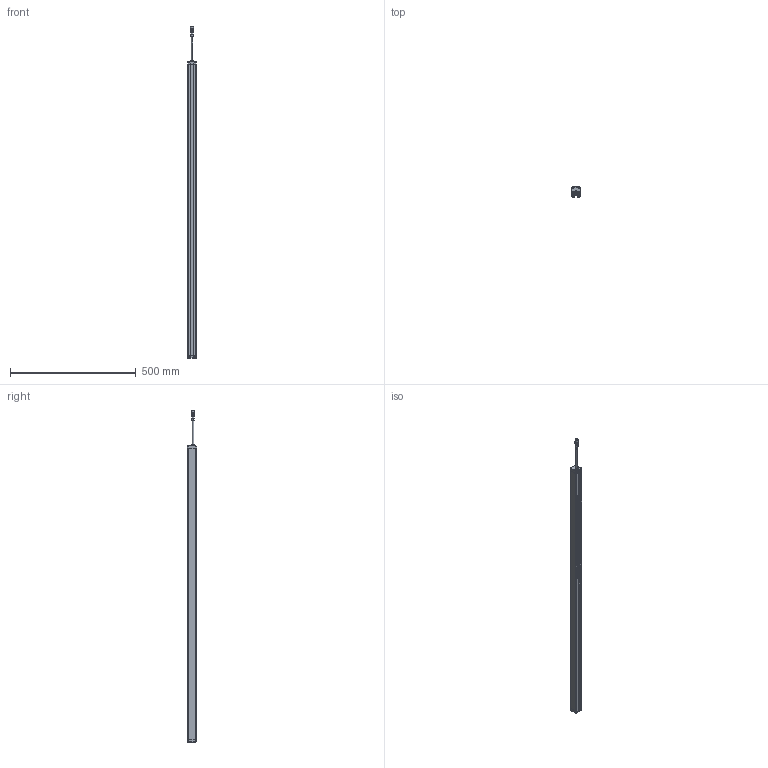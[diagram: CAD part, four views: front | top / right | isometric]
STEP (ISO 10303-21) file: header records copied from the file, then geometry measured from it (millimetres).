
FILE_DESCRIPTION((''),'2;1');
FILE_NAME('PRT0029','2026-03-31T13:16:54',('Administrator'),(''),'CREO PARAMETRIC BY PTC INC, 2016510','CREO PARAMETRIC BY PTC INC, 2016510','');
FILE_SCHEMA(('AUTOMOTIVE_DESIGN { 1 0 10303 214 1 1 1 1 }'));
Length unit declared in the file: millimetre
Products named in the file (1): PRT0029
Bounding box: 33 x 38 x 1321.9 mm (x, y, z)
Surface area: 259341.3 mm2 (no closed solid volume)
Topology: 0 solids, 12 shells, 815 faces, 2152 edges, 1356 vertices
Faces by surface type: plane 384, cylinder 235, extrusion 88, sphere 40, torus 36, cone 28, bspline 4
Entity records: 31994 total; most frequent: CARTESIAN_POINT 6045, ORIENTED_EDGE 4200, DIRECTION 3972, EDGE_CURVE 2100, VERTEX_POINT 1356, AXIS2_PLACEMENT_3D 1349, VECTOR 1274, LINE 1186
